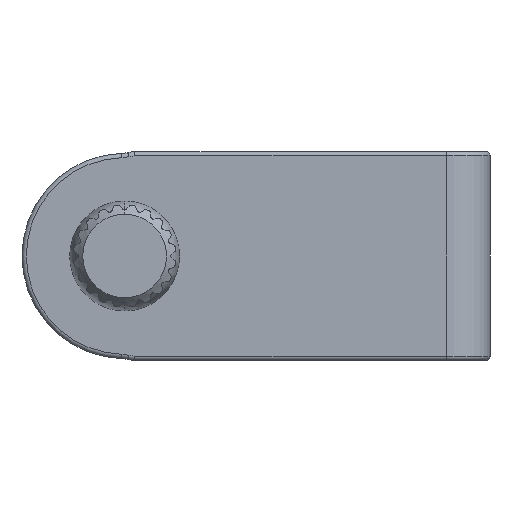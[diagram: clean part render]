
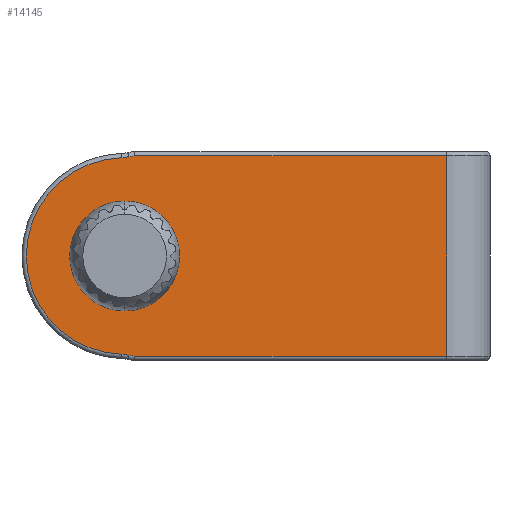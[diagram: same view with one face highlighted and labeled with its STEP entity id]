
A CAD part, left-side view. The second image highlights one B-rep face of the part: STEP entity #14145.
In plain terms, the highlighted planar face has unit normal (-1, 0, 0).
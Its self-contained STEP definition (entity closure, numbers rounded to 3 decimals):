
#6 = AXIS2_PLACEMENT_3D ( 'NONE', #4241, #10491, #7904 ) ;
#562 = VERTEX_POINT ( 'NONE', #9257 ) ;
#835 = ORIENTED_EDGE ( 'NONE', *, *, #7586, .T. ) ;
#933 = EDGE_CURVE ( 'NONE', #9494, #13398, #4555, .T. ) ;
#1070 = DIRECTION ( 'NONE',  ( 1., 0., 0. ) ) ;
#1084 = DIRECTION ( 'NONE',  ( -1., 0., 0. ) ) ;
#1092 = CARTESIAN_POINT ( 'NONE',  ( -25.15, 21., 0. ) ) ;
#1123 = VECTOR ( 'NONE', #1679, 1000. ) ;
#1130 = EDGE_CURVE ( 'NONE', #3594, #9494, #3346, .T. ) ;
#1235 = EDGE_CURVE ( 'NONE', #13398, #4174, #2522, .T. ) ;
#1309 = EDGE_CURVE ( 'NONE', #4174, #562, #15183, .T. ) ;
#1452 = EDGE_CURVE ( 'NONE', #562, #15499, #13537, .T. ) ;
#1476 = EDGE_CURVE ( 'NONE', #15499, #13241, #6585, .T. ) ;
#1567 = EDGE_CURVE ( 'NONE', #13241, #9412, #5735, .T. ) ;
#1679 = DIRECTION ( 'NONE',  ( 0., 1., 0. ) ) ;
#1727 = VERTEX_POINT ( 'NONE', #2938 ) ;
#1929 = CARTESIAN_POINT ( 'NONE',  ( -25.15, 20.754, 5.707 ) ) ;
#1994 = ORIENTED_EDGE ( 'NONE', *, *, #1476, .T. ) ;
#2031 = DIRECTION ( 'NONE',  ( -1., 0., 0. ) ) ;
#2251 = DIRECTION ( 'NONE',  ( 0., -1., 0. ) ) ;
#2433 = DIRECTION ( 'NONE',  ( 0., -1., 0. ) ) ;
#2522 = CIRCLE ( 'NONE', #11677, 1.26 ) ;
#2622 = EDGE_LOOP ( 'NONE', ( #15510, #12084, #10343, #4618, #4542, #1994, #2996, #13196, #835, #6148 ) ) ;
#2699 = CARTESIAN_POINT ( 'NONE',  ( -25.15, 20.428, 5.75 ) ) ;
#2938 = CARTESIAN_POINT ( 'NONE',  ( -25.15, 20.428, -5.75 ) ) ;
#2996 = ORIENTED_EDGE ( 'NONE', *, *, #1567, .T. ) ;
#3346 = LINE ( 'NONE', #16461, #10308 ) ;
#3577 = DIRECTION ( 'NONE',  ( 0., -1., 0. ) ) ;
#3594 = VERTEX_POINT ( 'NONE', #14388 ) ;
#4174 = VERTEX_POINT ( 'NONE', #14501 ) ;
#4241 = CARTESIAN_POINT ( 'NONE',  ( -25.15, 21.21, 7.407 ) ) ;
#4542 = ORIENTED_EDGE ( 'NONE', *, *, #1452, .T. ) ;
#4555 = LINE ( 'NONE', #16303, #1123 ) ;
#4618 = ORIENTED_EDGE ( 'NONE', *, *, #1309, .T. ) ;
#4688 = CARTESIAN_POINT ( 'NONE',  ( -25.15, 21.16, -5.648 ) ) ;
#4809 = FACE_OUTER_BOUND ( 'NONE', #2622, .T. ) ;
#5735 = CIRCLE ( 'NONE', #11541, 1.76 ) ;
#6148 = ORIENTED_EDGE ( 'NONE', *, *, #7562, .T. ) ;
#6547 = AXIS2_PLACEMENT_3D ( 'NONE', #8879, #1084, #10221 ) ;
#6585 = CIRCLE ( 'NONE', #8421, 5.65 ) ;
#6810 = CARTESIAN_POINT ( 'NONE',  ( -25.15, 21.16, 5.648 ) ) ;
#6822 = LINE ( 'NONE', #12717, #9914 ) ;
#7125 = DIRECTION ( 'NONE',  ( -1., 0., 0. ) ) ;
#7244 = CIRCLE ( 'NONE', #6547, 1.26 ) ;
#7562 = EDGE_CURVE ( 'NONE', #1727, #3594, #6822, .T. ) ;
#7586 = EDGE_CURVE ( 'NONE', #15493, #1727, #7244, .T. ) ;
#7711 = EDGE_CURVE ( 'NONE', #9412, #15493, #15199, .T. ) ;
#7780 = CARTESIAN_POINT ( 'NONE',  ( -25.15, 20.754, -5.707 ) ) ;
#7904 = DIRECTION ( 'NONE',  ( 0., -1., 0. ) ) ;
#8011 = CARTESIAN_POINT ( 'NONE',  ( -25.15, 20.754, -5.707 ) ) ;
#8421 = AXIS2_PLACEMENT_3D ( 'NONE', #1092, #2031, #2433 ) ;
#8445 = DIRECTION ( 'NONE',  ( 0., 0.966, -0.259 ) ) ;
#8879 = CARTESIAN_POINT ( 'NONE',  ( -25.15, 20.428, -4.49 ) ) ;
#9257 = CARTESIAN_POINT ( 'NONE',  ( -25.15, 20.754, 5.707 ) ) ;
#9412 = VERTEX_POINT ( 'NONE', #16154 ) ;
#9494 = VERTEX_POINT ( 'NONE', #15100 ) ;
#9914 = VECTOR ( 'NONE', #2251, 1000. ) ;
#10221 = DIRECTION ( 'NONE',  ( 0., -1., 0. ) ) ;
#10308 = VECTOR ( 'NONE', #11237, 1000. ) ;
#10343 = ORIENTED_EDGE ( 'NONE', *, *, #1235, .T. ) ;
#10491 = DIRECTION ( 'NONE',  ( 1., 0., 0. ) ) ;
#10644 = AXIS2_PLACEMENT_3D ( 'NONE', #13626, #7125, #16212 ) ;
#11163 = DIRECTION ( 'NONE',  ( 0., -1., 0. ) ) ;
#11237 = DIRECTION ( 'NONE',  ( 0., 0., 1. ) ) ;
#11242 = DIRECTION ( 'NONE',  ( -1., 0., 0. ) ) ;
#11346 = VECTOR ( 'NONE', #15584, 1000. ) ;
#11504 = CARTESIAN_POINT ( 'NONE',  ( -25.15, 20.428, 4.49 ) ) ;
#11541 = AXIS2_PLACEMENT_3D ( 'NONE', #15164, #1070, #3577 ) ;
#11677 = AXIS2_PLACEMENT_3D ( 'NONE', #11504, #11242, #11163 ) ;
#11719 = VECTOR ( 'NONE', #8445, 1000. ) ;
#12084 = ORIENTED_EDGE ( 'NONE', *, *, #933, .T. ) ;
#12717 = CARTESIAN_POINT ( 'NONE',  ( -25.15, 2.5, -5.75 ) ) ;
#13196 = ORIENTED_EDGE ( 'NONE', *, *, #7711, .T. ) ;
#13241 = VERTEX_POINT ( 'NONE', #4688 ) ;
#13398 = VERTEX_POINT ( 'NONE', #2699 ) ;
#13537 = CIRCLE ( 'NONE', #6, 1.76 ) ;
#13626 = CARTESIAN_POINT ( 'NONE',  ( -25.15, 21., 0. ) ) ;
#14145 = ADVANCED_FACE ( 'NONE', ( #4809 ), #14938, .T. ) ;
#14388 = CARTESIAN_POINT ( 'NONE',  ( -25.15, 2.5, -5.75 ) ) ;
#14501 = CARTESIAN_POINT ( 'NONE',  ( -25.15, 20.754, 5.707 ) ) ;
#14938 = PLANE ( 'NONE',  #10644 ) ;
#15100 = CARTESIAN_POINT ( 'NONE',  ( -25.15, 2.5, 5.75 ) ) ;
#15164 = CARTESIAN_POINT ( 'NONE',  ( -25.15, 21.21, -7.407 ) ) ;
#15183 = LINE ( 'NONE', #1929, #11719 ) ;
#15199 = LINE ( 'NONE', #7780, #11346 ) ;
#15493 = VERTEX_POINT ( 'NONE', #8011 ) ;
#15499 = VERTEX_POINT ( 'NONE', #6810 ) ;
#15510 = ORIENTED_EDGE ( 'NONE', *, *, #1130, .T. ) ;
#15584 = DIRECTION ( 'NONE',  ( 0., -0.966, -0.259 ) ) ;
#16154 = CARTESIAN_POINT ( 'NONE',  ( -25.15, 20.754, -5.707 ) ) ;
#16212 = DIRECTION ( 'NONE',  ( 0., -1., 0. ) ) ;
#16303 = CARTESIAN_POINT ( 'NONE',  ( -25.15, 20.428, 5.75 ) ) ;
#16461 = CARTESIAN_POINT ( 'NONE',  ( -25.15, 2.5, 6. ) ) ;
